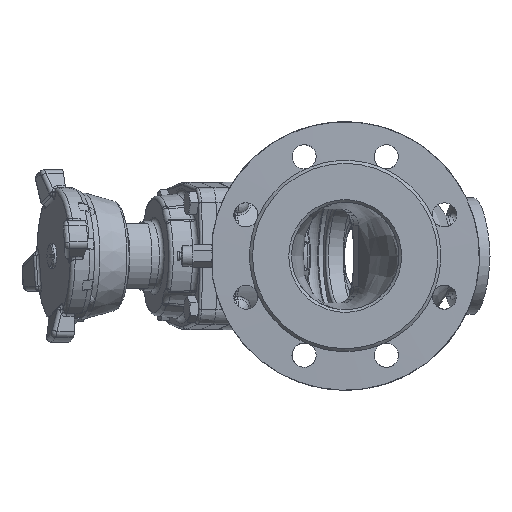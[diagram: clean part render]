
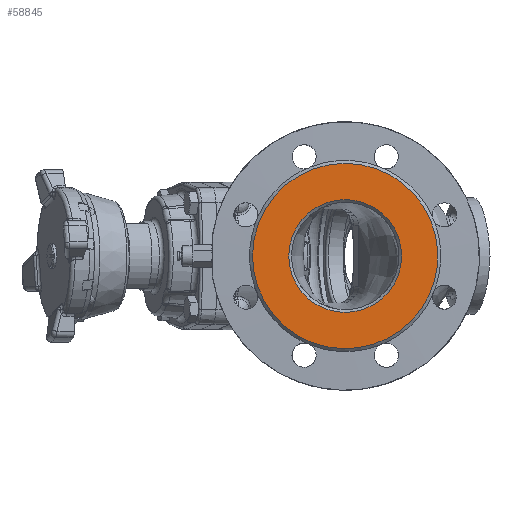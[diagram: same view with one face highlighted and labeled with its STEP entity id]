
A CAD part, left-side view. The second image highlights one B-rep face of the part: STEP entity #58845.
In plain terms, the highlighted planar face has unit normal (-1, 0, 0).
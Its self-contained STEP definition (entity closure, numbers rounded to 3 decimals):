
#43412 = PLANE ( 'NONE',  #43552 ) ;
#43473 = FACE_OUTER_BOUND ( 'NONE', #58840, .T. ) ;
#43552 = AXIS2_PLACEMENT_3D ( 'NONE', #43557, #43610, #43608 ) ;
#43555 = FACE_BOUND ( 'NONE', #58846, .T. ) ;
#43557 = CARTESIAN_POINT ( 'NONE',  ( -147., -40., 0. ) ) ;
#43562 = AXIS2_PLACEMENT_3D ( 'NONE', #43665, #43655, #43654 ) ;
#43578 = CIRCLE ( 'NONE', #43562, 42. ) ;
#43608 = DIRECTION ( 'NONE',  ( 0., 0., 1. ) ) ;
#43610 = DIRECTION ( 'NONE',  ( -1., 0., 0. ) ) ;
#43654 = DIRECTION ( 'NONE',  ( 0., 0., 1. ) ) ;
#43655 = DIRECTION ( 'NONE',  ( 1., 0., 0. ) ) ;
#43665 = CARTESIAN_POINT ( 'NONE',  ( -147., 0., 0. ) ) ;
#43795 = CIRCLE ( 'NONE', #43859, 69. ) ;
#43855 = DIRECTION ( 'NONE',  ( 0., 0., 1. ) ) ;
#43856 = DIRECTION ( 'NONE',  ( -1., 0., 0. ) ) ;
#43858 = CARTESIAN_POINT ( 'NONE',  ( -147., 0., 0. ) ) ;
#43859 = AXIS2_PLACEMENT_3D ( 'NONE', #43858, #43856, #43855 ) ;
#58814 = ORIENTED_EDGE ( 'NONE', *, *, #58883, .T. ) ;
#58840 = EDGE_LOOP ( 'NONE', ( #58814 ) ) ;
#58844 = EDGE_CURVE ( 'NONE', #67496, #67496, #43578, .T. ) ;
#58845 = ADVANCED_FACE ( 'NONE', ( #43555, #43473 ), #43412, .T. ) ;
#58846 = EDGE_LOOP ( 'NONE', ( #58850 ) ) ;
#58850 = ORIENTED_EDGE ( 'NONE', *, *, #58844, .T. ) ;
#58883 = EDGE_CURVE ( 'NONE', #67492, #67492, #43795, .T. ) ;
#67489 = CARTESIAN_POINT ( 'NONE',  ( -147., 0., 69. ) ) ;
#67492 = VERTEX_POINT ( 'NONE', #67489 ) ;
#67493 = CARTESIAN_POINT ( 'NONE',  ( -147., 0., 42. ) ) ;
#67496 = VERTEX_POINT ( 'NONE', #67493 ) ;
